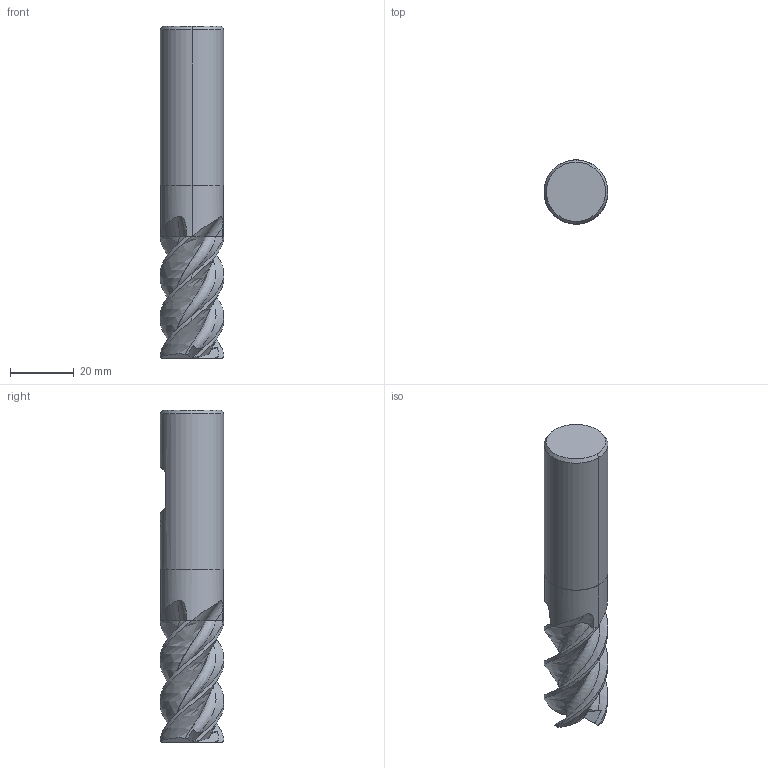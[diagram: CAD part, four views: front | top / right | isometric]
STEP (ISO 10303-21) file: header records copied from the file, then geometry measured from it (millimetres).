
FILE_DESCRIPTION(('no description'),'unknown implementation level');
FILE_NAME('solid09ZSZ0NUi8fuSKOUv4KbTlS6SUM_1.STP',' ',('CIMSOURCE GmbH'),('CADClick - KiM GmbH - www.kimweb.de'),'unknown preprocess','ACIS','unknown authorization');
FILE_SCHEMA(('automotive_design'));
Length unit declared in the file: millimetre
Products named in the file (2): 1; 2
Bounding box: 20 x 20 x 104 mm (x, y, z)
Volume: 26351.3 mm3; surface area: 7957.3 mm2
Topology: 2 solids, 2 shells, 92 faces, 257 edges, 169 vertices
Faces by surface type: plane 34, bspline 20, revolution 12, cylinder 10, cone 10, torus 6
Entity records: 17787 total; most frequent: CARTESIAN_POINT 12761, STYLED_ITEM 520, PRESENTATION_STYLE_ASSIGNMENT 520, COLOUR_RGB 520, ORIENTED_EDGE 514, DIRECTION 332, EDGE_CURVE 257, CURVE_STYLE 257
